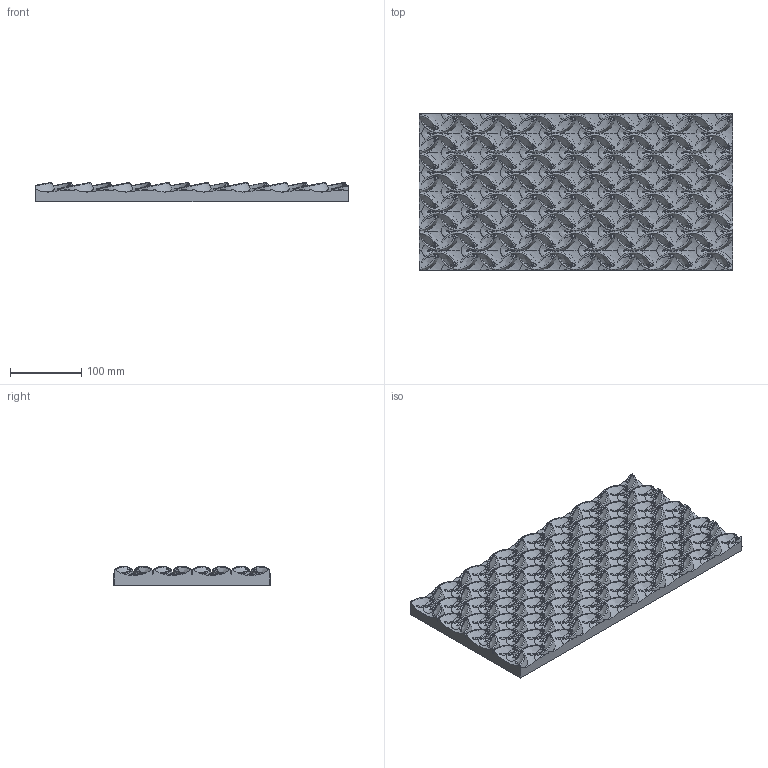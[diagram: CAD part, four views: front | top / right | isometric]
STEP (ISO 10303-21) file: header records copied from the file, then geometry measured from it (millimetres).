
FILE_DESCRIPTION (( 'STEP AP214' ), '1' );
FILE_NAME ('Orient_44x22_STEP.STEP', '2022-06-01T13:14:24', ( '' ), ( '' ), 'SwSTEP 2.0', 'SolidWorks 2020', '' );
FILE_SCHEMA (( 'AUTOMOTIVE_DESIGN' ));
Length unit declared in the file: millimetre
Products named in the file (1): Orient_44x22_STEP
Bounding box: 440 x 220 x 26.72 mm (x, y, z)
Volume: 1809805.9 mm3; surface area: 273140.2 mm2
Topology: 1 solids, 1 shells, 1914 faces, 5372 edges, 3204 vertices
Faces by surface type: bspline 1914
Entity records: 219810 total; most frequent: CARTESIAN_POINT 191568, ORIENTED_EDGE 10232, EDGE_CURVE 5116, B_SPLINE_CURVE_WITH_KNOTS 3902, VERTEX_POINT 3204, ADVANCED_FACE 1914, FACE_OUTER_BOUND 1914, EDGE_LOOP 1914
